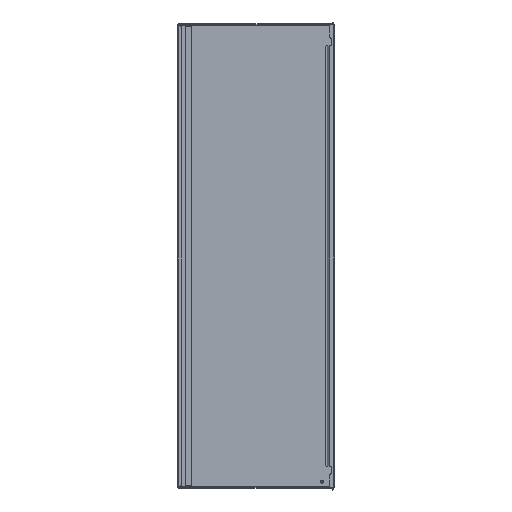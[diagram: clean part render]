
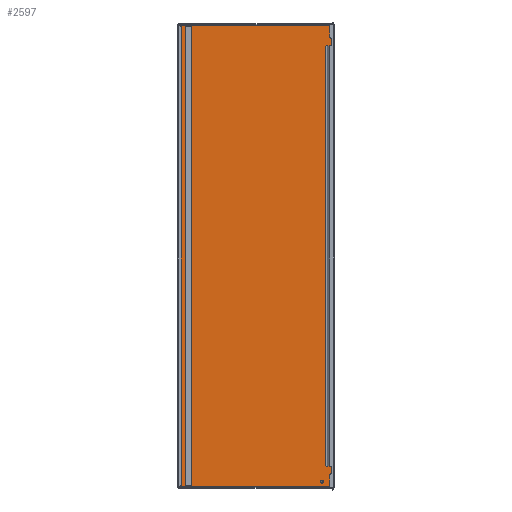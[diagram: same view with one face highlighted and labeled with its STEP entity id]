
A CAD part, top view. The second image highlights one B-rep face of the part: STEP entity #2597.
In plain terms, the highlighted planar face has unit normal (0, 0, 1).
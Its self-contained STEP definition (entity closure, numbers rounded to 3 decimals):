
#292 = ORIENTED_EDGE ( 'NONE', *, *, #3086, .F. ) ;
#293 = ORIENTED_EDGE ( 'NONE', *, *, #3087, .F. ) ;
#294 = ORIENTED_EDGE ( 'NONE', *, *, #3085, .F. ) ;
#295 = ORIENTED_EDGE ( 'NONE', *, *, #3089, .F. ) ;
#296 = ORIENTED_EDGE ( 'NONE', *, *, #3090, .F. ) ;
#297 = ORIENTED_EDGE ( 'NONE', *, *, #3091, .T. ) ;
#298 = ORIENTED_EDGE ( 'NONE', *, *, #3088, .T. ) ;
#299 = ORIENTED_EDGE ( 'NONE', *, *, #3092, .T. ) ;
#300 = ORIENTED_EDGE ( 'NONE', *, *, #3093, .T. ) ;
#301 = ORIENTED_EDGE ( 'NONE', *, *, #3094, .F. ) ;
#302 = ORIENTED_EDGE ( 'NONE', *, *, #3097, .F. ) ;
#303 = ORIENTED_EDGE ( 'NONE', *, *, #3095, .F. ) ;
#304 = ORIENTED_EDGE ( 'NONE', *, *, #3069, .F. ) ;
#305 = ORIENTED_EDGE ( 'NONE', *, *, #3098, .F. ) ;
#306 = ORIENTED_EDGE ( 'NONE', *, *, #3096, .F. ) ;
#307 = ORIENTED_EDGE ( 'NONE', *, *, #3099, .F. ) ;
#377 = EDGE_LOOP ( 'NONE', ( #292, #294, #293, #295 ) ) ;
#378 = EDGE_LOOP ( 'NONE', ( #296, #298, #297, #299, #300, #301 ) ) ;
#379 = EDGE_LOOP ( 'NONE', ( #303, #304 ) ) ;
#380 = EDGE_LOOP ( 'NONE', ( #302, #306, #305, #307 ) ) ;
#559 = VERTEX_POINT ( 'NONE', #4629 ) ;
#560 = VERTEX_POINT ( 'NONE', #4628 ) ;
#573 = VERTEX_POINT ( 'NONE', #4820 ) ;
#574 = VERTEX_POINT ( 'NONE', #4819 ) ;
#575 = VERTEX_POINT ( 'NONE', #4818 ) ;
#576 = VERTEX_POINT ( 'NONE', #4817 ) ;
#577 = VERTEX_POINT ( 'NONE', #4816 ) ;
#578 = VERTEX_POINT ( 'NONE', #4815 ) ;
#579 = VERTEX_POINT ( 'NONE', #4814 ) ;
#580 = VERTEX_POINT ( 'NONE', #4813 ) ;
#581 = VERTEX_POINT ( 'NONE', #4812 ) ;
#582 = VERTEX_POINT ( 'NONE', #4811 ) ;
#583 = VERTEX_POINT ( 'NONE', #4810 ) ;
#584 = VERTEX_POINT ( 'NONE', #4809 ) ;
#585 = VERTEX_POINT ( 'NONE', #4808 ) ;
#586 = VERTEX_POINT ( 'NONE', #4807 ) ;
#743 = AXIS2_PLACEMENT_3D ( 'NONE', #1043, #1042, #1041 ) ;
#751 = AXIS2_PLACEMENT_3D ( 'NONE', #968, #964, #963 ) ;
#788 = VECTOR ( 'NONE', #992, 1000. ) ;
#789 = AXIS2_PLACEMENT_3D ( 'NONE', #974, #970, #969 ) ;
#792 = VECTOR ( 'NONE', #989, 1000. ) ;
#797 = VECTOR ( 'NONE', #986, 1000. ) ;
#853 = VECTOR ( 'NONE', #950, 1000. ) ;
#854 = VECTOR ( 'NONE', #953, 1000. ) ;
#855 = VECTOR ( 'NONE', #956, 1000. ) ;
#857 = VECTOR ( 'NONE', #959, 1000. ) ;
#858 = VECTOR ( 'NONE', #965, 1000. ) ;
#861 = VECTOR ( 'NONE', #971, 1000. ) ;
#864 = VECTOR ( 'NONE', #977, 1000. ) ;
#865 = VECTOR ( 'NONE', #980, 1000. ) ;
#866 = VECTOR ( 'NONE', #983, 1000. ) ;
#867 = AXIS2_PLACEMENT_3D ( 'NONE', #998, #976, #975 ) ;
#950 = DIRECTION ( 'NONE',  ( 0., -1., 0. ) ) ;
#951 = CARTESIAN_POINT ( 'NONE',  ( -324.6, -1056.75, -12. ) ) ;
#952 = LINE ( 'NONE', #951, #853 ) ;
#953 = DIRECTION ( 'NONE',  ( 1., 0., 0. ) ) ;
#954 = CARTESIAN_POINT ( 'NONE',  ( -324.6, -1056.75, -12. ) ) ;
#955 = LINE ( 'NONE', #954, #854 ) ;
#956 = DIRECTION ( 'NONE',  ( -1., 0., 0. ) ) ;
#957 = CARTESIAN_POINT ( 'NONE',  ( -324.6, 1056.75, -12. ) ) ;
#958 = LINE ( 'NONE', #957, #855 ) ;
#959 = DIRECTION ( 'NONE',  ( 0., 1., 0. ) ) ;
#960 = CARTESIAN_POINT ( 'NONE',  ( -295.5, -1056.75, -12. ) ) ;
#961 = LINE ( 'NONE', #960, #857 ) ;
#963 = DIRECTION ( 'NONE',  ( 1., 0., 0. ) ) ;
#964 = DIRECTION ( 'NONE',  ( 0., 0., 1. ) ) ;
#965 = DIRECTION ( 'NONE',  ( -1., 0., 0. ) ) ;
#966 = CARTESIAN_POINT ( 'NONE',  ( 326.879, 965.75, -12. ) ) ;
#967 = LINE ( 'NONE', #966, #858 ) ;
#968 = CARTESIAN_POINT ( 'NONE',  ( 304., -1036.75, -12. ) ) ;
#969 = DIRECTION ( 'NONE',  ( 1., 0., 0. ) ) ;
#970 = DIRECTION ( 'NONE',  ( 0., 0., -1. ) ) ;
#971 = DIRECTION ( 'NONE',  ( 0., 1., 0. ) ) ;
#972 = CARTESIAN_POINT ( 'NONE',  ( 320.121, -988.171, -12. ) ) ;
#973 = LINE ( 'NONE', #972, #861 ) ;
#974 = CARTESIAN_POINT ( 'NONE',  ( 324.621, 961.25, -12. ) ) ;
#975 = DIRECTION ( 'NONE',  ( 1., 0., 0. ) ) ;
#976 = DIRECTION ( 'NONE',  ( 0., 0., -1. ) ) ;
#977 = DIRECTION ( 'NONE',  ( 0., 1., 0. ) ) ;
#978 = CARTESIAN_POINT ( 'NONE',  ( 326.879, -988.171, -12. ) ) ;
#979 = LINE ( 'NONE', #978, #864 ) ;
#980 = DIRECTION ( 'NONE',  ( -1., 0., 0. ) ) ;
#981 = CARTESIAN_POINT ( 'NONE',  ( 0., -1063.75, -12. ) ) ;
#982 = LINE ( 'NONE', #981, #865 ) ;
#983 = DIRECTION ( 'NONE',  ( -1., 0., 0. ) ) ;
#984 = CARTESIAN_POINT ( 'NONE',  ( 326.879, -965.75, -12. ) ) ;
#985 = LINE ( 'NONE', #984, #866 ) ;
#986 = DIRECTION ( 'NONE',  ( 0., 1., 0. ) ) ;
#987 = CARTESIAN_POINT ( 'NONE',  ( -356., 0., -12. ) ) ;
#988 = LINE ( 'NONE', #987, #797 ) ;
#989 = DIRECTION ( 'NONE',  ( 0., -1., 0. ) ) ;
#990 = CARTESIAN_POINT ( 'NONE',  ( 356., 0., -12. ) ) ;
#991 = LINE ( 'NONE', #990, #792 ) ;
#992 = DIRECTION ( 'NONE',  ( 1., 0., 0. ) ) ;
#993 = CARTESIAN_POINT ( 'NONE',  ( 0., 1063.75, -12. ) ) ;
#994 = LINE ( 'NONE', #993, #788 ) ;
#998 = CARTESIAN_POINT ( 'NONE',  ( 324.621, -961.25, -12. ) ) ;
#1041 = DIRECTION ( 'NONE',  ( 1., 0., 0. ) ) ;
#1042 = DIRECTION ( 'NONE',  ( 0., 0., 1. ) ) ;
#1043 = CARTESIAN_POINT ( 'NONE',  ( 304., -1036.75, -12. ) ) ;
#2381 = CIRCLE ( 'NONE', #751, 0.25 ) ;
#2382 = CIRCLE ( 'NONE', #789, 4.5 ) ;
#2383 = CIRCLE ( 'NONE', #867, 4.5 ) ;
#2390 = CIRCLE ( 'NONE', #743, 0.25 ) ;
#2597 = ADVANCED_FACE ( 'NONE', ( #4515, #4510, #4508, #4506 ), #3995, .T. ) ;
#3069 = EDGE_CURVE ( 'NONE', #559, #560, #2390, .T. ) ;
#3085 = EDGE_CURVE ( 'NONE', #575, #573, #994, .T. ) ;
#3086 = EDGE_CURVE ( 'NONE', #573, #574, #991, .T. ) ;
#3087 = EDGE_CURVE ( 'NONE', #576, #575, #988, .T. ) ;
#3088 = EDGE_CURVE ( 'NONE', #577, #579, #985, .T. ) ;
#3089 = EDGE_CURVE ( 'NONE', #574, #576, #982, .T. ) ;
#3090 = EDGE_CURVE ( 'NONE', #577, #578, #979, .T. ) ;
#3091 = EDGE_CURVE ( 'NONE', #579, #580, #2383, .T. ) ;
#3092 = EDGE_CURVE ( 'NONE', #580, #581, #973, .T. ) ;
#3093 = EDGE_CURVE ( 'NONE', #581, #582, #2382, .T. ) ;
#3094 = EDGE_CURVE ( 'NONE', #578, #582, #967, .T. ) ;
#3095 = EDGE_CURVE ( 'NONE', #560, #559, #2381, .T. ) ;
#3096 = EDGE_CURVE ( 'NONE', #585, #583, #961, .T. ) ;
#3097 = EDGE_CURVE ( 'NONE', #583, #584, #958, .T. ) ;
#3098 = EDGE_CURVE ( 'NONE', #586, #585, #955, .T. ) ;
#3099 = EDGE_CURVE ( 'NONE', #584, #586, #952, .T. ) ;
#3992 = DIRECTION ( 'NONE',  ( 1., 0., 0. ) ) ;
#3993 = DIRECTION ( 'NONE',  ( 0., 0., 1. ) ) ;
#3994 = CARTESIAN_POINT ( 'NONE',  ( 0., 0., -12. ) ) ;
#3995 = PLANE ( 'NONE',  #4512 ) ;
#4506 = FACE_BOUND ( 'NONE', #380, .T. ) ;
#4508 = FACE_BOUND ( 'NONE', #379, .T. ) ;
#4510 = FACE_BOUND ( 'NONE', #378, .T. ) ;
#4512 = AXIS2_PLACEMENT_3D ( 'NONE', #3994, #3993, #3992 ) ;
#4515 = FACE_OUTER_BOUND ( 'NONE', #377, .T. ) ;
#4628 = CARTESIAN_POINT ( 'NONE',  ( 304.25, -1036.75, -12. ) ) ;
#4629 = CARTESIAN_POINT ( 'NONE',  ( 303.75, -1036.75, -12. ) ) ;
#4807 = CARTESIAN_POINT ( 'NONE',  ( -324.6, -1056.75, -12. ) ) ;
#4808 = CARTESIAN_POINT ( 'NONE',  ( -295.5, -1056.75, -12. ) ) ;
#4809 = CARTESIAN_POINT ( 'NONE',  ( -324.6, 1056.75, -12. ) ) ;
#4810 = CARTESIAN_POINT ( 'NONE',  ( -295.5, 1056.75, -12. ) ) ;
#4811 = CARTESIAN_POINT ( 'NONE',  ( 324.621, 965.75, -12. ) ) ;
#4812 = CARTESIAN_POINT ( 'NONE',  ( 320.121, 961.25, -12. ) ) ;
#4813 = CARTESIAN_POINT ( 'NONE',  ( 320.121, -961.25, -12. ) ) ;
#4814 = CARTESIAN_POINT ( 'NONE',  ( 324.621, -965.75, -12. ) ) ;
#4815 = CARTESIAN_POINT ( 'NONE',  ( 326.879, 965.75, -12. ) ) ;
#4816 = CARTESIAN_POINT ( 'NONE',  ( 326.879, -965.75, -12. ) ) ;
#4817 = CARTESIAN_POINT ( 'NONE',  ( -356., -1063.75, -12. ) ) ;
#4818 = CARTESIAN_POINT ( 'NONE',  ( -356., 1063.75, -12. ) ) ;
#4819 = CARTESIAN_POINT ( 'NONE',  ( 356., -1063.75, -12. ) ) ;
#4820 = CARTESIAN_POINT ( 'NONE',  ( 356., 1063.75, -12. ) ) ;
